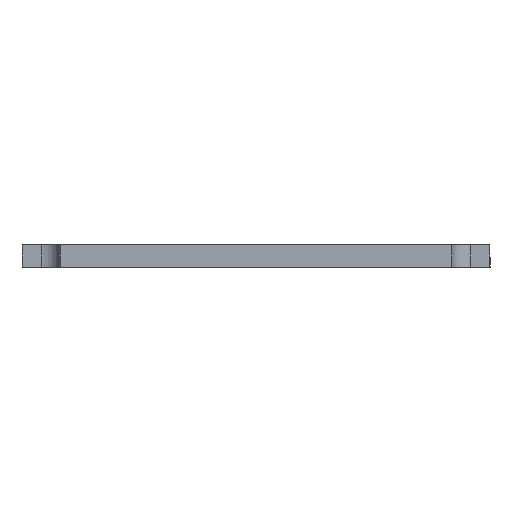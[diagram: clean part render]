
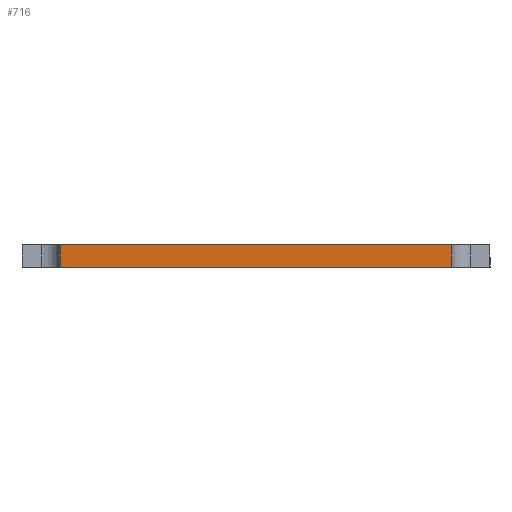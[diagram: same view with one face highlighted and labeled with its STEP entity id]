
A CAD part, left-side view. The second image highlights one B-rep face of the part: STEP entity #716.
In plain terms, the highlighted planar face has unit normal (-1, 0, 0).
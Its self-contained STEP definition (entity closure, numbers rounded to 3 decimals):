
#106 = DIRECTION ( 'NONE',  ( -1., 0., 0. ) ) ;
#136 = DIRECTION ( 'NONE',  ( 0., 0., 1. ) ) ;
#335 = PLANE ( 'NONE',  #529 ) ;
#529 = AXIS2_PLACEMENT_3D ( 'NONE', #2722, #106, #136 ) ;
#716 = ADVANCED_FACE ( 'NONE', ( #2602 ), #335, .T. ) ;
#743 = VECTOR ( 'NONE', #2997, 1000. ) ;
#792 = EDGE_CURVE ( 'NONE', #899, #2889, #877, .T. ) ;
#877 = LINE ( 'NONE', #1973, #2680 ) ;
#899 = VERTEX_POINT ( 'NONE', #2538 ) ;
#1033 = CARTESIAN_POINT ( 'NONE',  ( -146.853, 42.947, 3.5 ) ) ;
#1123 = CARTESIAN_POINT ( 'NONE',  ( -146.853, -18.853, 0. ) ) ;
#1150 = DIRECTION ( 'NONE',  ( 0., 0., 1. ) ) ;
#1218 = EDGE_CURVE ( 'NONE', #2889, #1816, #2277, .T. ) ;
#1505 = ORIENTED_EDGE ( 'NONE', *, *, #1761, .T. ) ;
#1506 = VERTEX_POINT ( 'NONE', #1805 ) ;
#1621 = CARTESIAN_POINT ( 'NONE',  ( -146.853, 42.947, 1. ) ) ;
#1670 = DIRECTION ( 'NONE',  ( 0., 1., 0. ) ) ;
#1739 = LINE ( 'NONE', #1123, #2954 ) ;
#1761 = EDGE_CURVE ( 'NONE', #1506, #899, #2956, .T. ) ;
#1805 = CARTESIAN_POINT ( 'NONE',  ( -146.853, -18.853, 0. ) ) ;
#1807 = EDGE_LOOP ( 'NONE', ( #1505, #2097, #2451, #2990 ) ) ;
#1816 = VERTEX_POINT ( 'NONE', #2667 ) ;
#1973 = CARTESIAN_POINT ( 'NONE',  ( -146.853, -18.853, 3.5 ) ) ;
#2097 = ORIENTED_EDGE ( 'NONE', *, *, #792, .T. ) ;
#2151 = VECTOR ( 'NONE', #1150, 1000. ) ;
#2277 = LINE ( 'NONE', #1621, #743 ) ;
#2451 = ORIENTED_EDGE ( 'NONE', *, *, #1218, .T. ) ;
#2471 = EDGE_CURVE ( 'NONE', #1816, #1506, #1739, .T. ) ;
#2538 = CARTESIAN_POINT ( 'NONE',  ( -146.853, -18.853, 3.5 ) ) ;
#2602 = FACE_OUTER_BOUND ( 'NONE', #1807, .T. ) ;
#2667 = CARTESIAN_POINT ( 'NONE',  ( -146.853, 42.947, 0. ) ) ;
#2680 = VECTOR ( 'NONE', #1670, 1000. ) ;
#2722 = CARTESIAN_POINT ( 'NONE',  ( -146.853, 0., 0. ) ) ;
#2889 = VERTEX_POINT ( 'NONE', #1033 ) ;
#2943 = CARTESIAN_POINT ( 'NONE',  ( -146.853, -18.853, 1. ) ) ;
#2954 = VECTOR ( 'NONE', #3226, 1000. ) ;
#2956 = LINE ( 'NONE', #2943, #2151 ) ;
#2990 = ORIENTED_EDGE ( 'NONE', *, *, #2471, .T. ) ;
#2997 = DIRECTION ( 'NONE',  ( 0., 0., -1. ) ) ;
#3226 = DIRECTION ( 'NONE',  ( 0., -1., 0. ) ) ;
